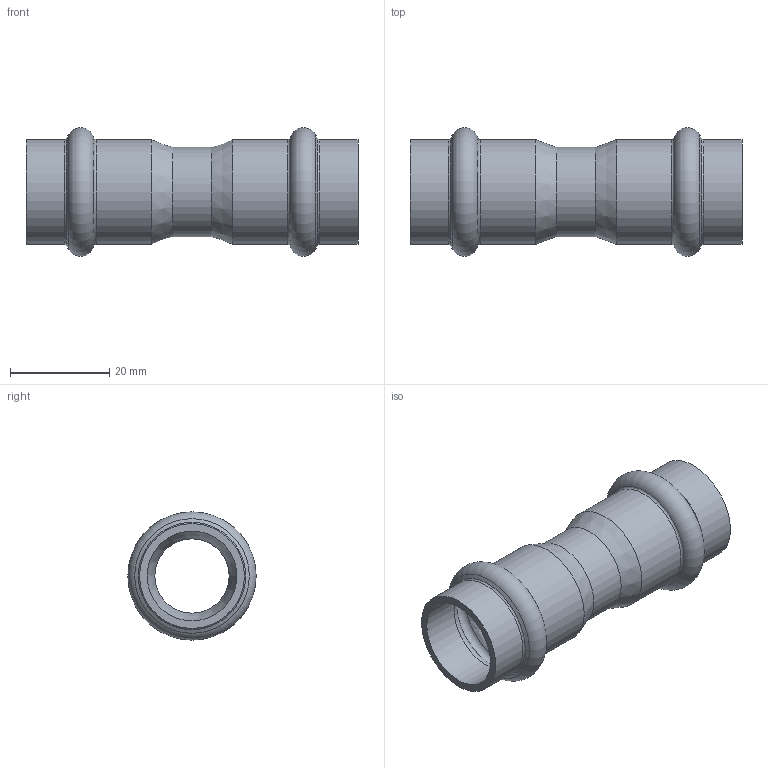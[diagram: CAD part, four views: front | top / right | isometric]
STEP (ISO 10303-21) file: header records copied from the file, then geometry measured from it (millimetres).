
FILE_DESCRIPTION((''),'2;1');
FILE_NAME('G:\Technics\CAD\Bauteile\018\6927018(1).stp','2008-01-31T09:30:18',('herberg'),(''),'Autodesk Inventor 2008','Autodesk Inventor 2008','');
FILE_SCHEMA(('AUTOMOTIVE_DESIGN { 1 0 10303 214 1 1 1 1 }'));
Length unit declared in the file: millimetre
Products named in the file (1): 6927018(1)
Bounding box: 67 x 25.9 x 25.9 mm (x, y, z)
Volume: 6661.2 mm3; surface area: 9066 mm2
Topology: 1 solids, 1 shells, 32 faces, 66 edges, 36 vertices
Faces by surface type: cylinder 10, cone 8, bspline 8, torus 4, plane 2
Full cylindrical faces by diameter (mm): 15 x1, 18 x1, 18.15 x4, 21.15 x4
Entity records: 994 total; most frequent: CARTESIAN_POINT 449, DIRECTION 114, ORIENTED_EDGE 64, EDGE_LOOP 64, AXIS2_PLACEMENT_3D 57, VERTEX_POINT 32, CIRCLE 32, EDGE_CURVE 32
